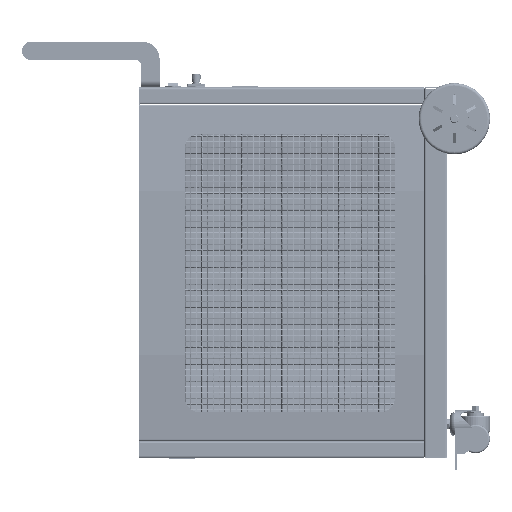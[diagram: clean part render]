
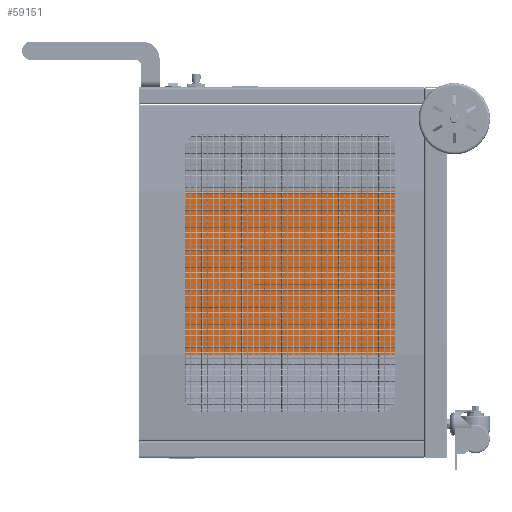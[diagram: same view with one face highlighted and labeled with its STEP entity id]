
A CAD part, left-side view. The second image highlights one B-rep face of the part: STEP entity #59151.
In plain terms, the highlighted planar face has unit normal (-1, 0, 0).
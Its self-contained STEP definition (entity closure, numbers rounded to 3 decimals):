
#4116 = CARTESIAN_POINT ( 'NONE',  ( 183.167, 319.828, 166. ) ) ;
#23815 = EDGE_CURVE ( 'NONE', #108819, #295695, #146252, .T. ) ;
#31668 = CARTESIAN_POINT ( 'NONE',  ( 183.167, 319.828, 166.08 ) ) ;
#59151 = ADVANCED_FACE ( 'NONE', ( #60715 ), #134701, .T. ) ;
#60715 = FACE_OUTER_BOUND ( 'NONE', #91874, .T. ) ;
#63569 = ORIENTED_EDGE ( 'NONE', *, *, #231019, .T. ) ;
#63831 = CARTESIAN_POINT ( 'NONE',  ( 183.167, 319.828, 166.08 ) ) ;
#70347 = CARTESIAN_POINT ( 'NONE',  ( 183.167, -178.172, 453.92 ) ) ;
#74182 = LINE ( 'NONE', #282005, #149975 ) ;
#74948 = LINE ( 'NONE', #231303, #259403 ) ;
#77537 = VECTOR ( 'NONE', #168630, 1000. ) ;
#79786 = CARTESIAN_POINT ( 'NONE',  ( 183.167, 319.828, 453.92 ) ) ;
#84847 = LINE ( 'NONE', #79786, #268986 ) ;
#91874 = EDGE_LOOP ( 'NONE', ( #63569, #201800, #109367, #184508 ) ) ;
#97418 = CARTESIAN_POINT ( 'NONE',  ( 183.167, -178.172, 166.08 ) ) ;
#107724 = EDGE_CURVE ( 'NONE', #262513, #318764, #84847, .T. ) ;
#108819 = VERTEX_POINT ( 'NONE', #31668 ) ;
#109367 = ORIENTED_EDGE ( 'NONE', *, *, #139349, .T. ) ;
#134701 = PLANE ( 'NONE',  #224647 ) ;
#139349 = EDGE_CURVE ( 'NONE', #295695, #262513, #74948, .T. ) ;
#146252 = LINE ( 'NONE', #63831, #77537 ) ;
#149975 = VECTOR ( 'NONE', #331868, 1000. ) ;
#165540 = DIRECTION ( 'NONE',  ( -1., 0., 0. ) ) ;
#168630 = DIRECTION ( 'NONE',  ( 0., -1., 0. ) ) ;
#184508 = ORIENTED_EDGE ( 'NONE', *, *, #107724, .T. ) ;
#201800 = ORIENTED_EDGE ( 'NONE', *, *, #23815, .T. ) ;
#224647 = AXIS2_PLACEMENT_3D ( 'NONE', #4116, #165540, #320128 ) ;
#231019 = EDGE_CURVE ( 'NONE', #318764, #108819, #74182, .T. ) ;
#231303 = CARTESIAN_POINT ( 'NONE',  ( 183.167, -178.172, 166. ) ) ;
#250327 = CARTESIAN_POINT ( 'NONE',  ( 183.167, 319.828, 453.92 ) ) ;
#259403 = VECTOR ( 'NONE', #336041, 1000. ) ;
#262513 = VERTEX_POINT ( 'NONE', #70347 ) ;
#268986 = VECTOR ( 'NONE', #316785, 1000. ) ;
#282005 = CARTESIAN_POINT ( 'NONE',  ( 183.167, 319.828, 166. ) ) ;
#295695 = VERTEX_POINT ( 'NONE', #97418 ) ;
#316785 = DIRECTION ( 'NONE',  ( 0., 1., 0. ) ) ;
#318764 = VERTEX_POINT ( 'NONE', #250327 ) ;
#320128 = DIRECTION ( 'NONE',  ( 0., 1., 0. ) ) ;
#331868 = DIRECTION ( 'NONE',  ( 0., 0., -1. ) ) ;
#336041 = DIRECTION ( 'NONE',  ( 0., 0., 1. ) ) ;
